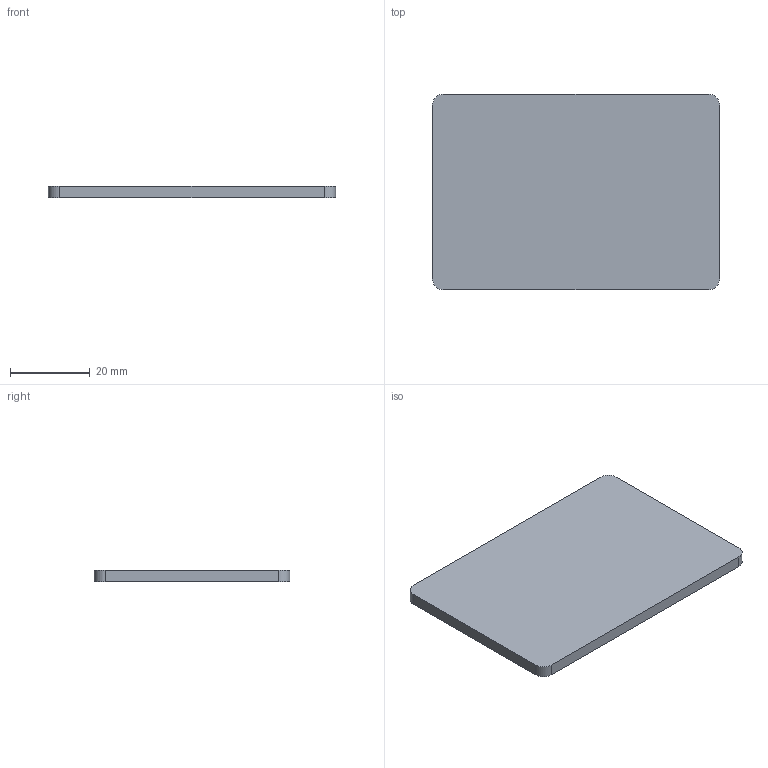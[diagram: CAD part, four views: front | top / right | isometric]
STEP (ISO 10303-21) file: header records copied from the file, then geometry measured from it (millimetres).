
FILE_DESCRIPTION(('Open CASCADE Model'),'2;1');
FILE_NAME('Open CASCADE Shape Model','2026-11-05T01:47:42',('Author'),( 'Open CASCADE'),'Open CASCADE STEP processor 7.8','Open CASCADE 7.8' ,'Unknown');
FILE_SCHEMA(('AUTOMOTIVE_DESIGN { 1 0 10303 214 1 1 1 1 }'));
Length unit declared in the file: millimetre
Products named in the file (1): Open CASCADE STEP translator 7.8 25
Bounding box: 72 x 49 x 3 mm (x, y, z)
Volume: 10563.8 mm3; surface area: 7754.1 mm2
Topology: 1 solids, 1 shells, 10 faces, 24 edges, 16 vertices
Faces by surface type: plane 6, cylinder 4
Entity records: 630 total; most frequent: CARTESIAN_POINT 123, DIRECTION 98, LINE 56, VECTOR 56, ORIENTED_EDGE 48, PCURVE 48, DEFINITIONAL_REPRESENTATION 48, EDGE_CURVE 24
